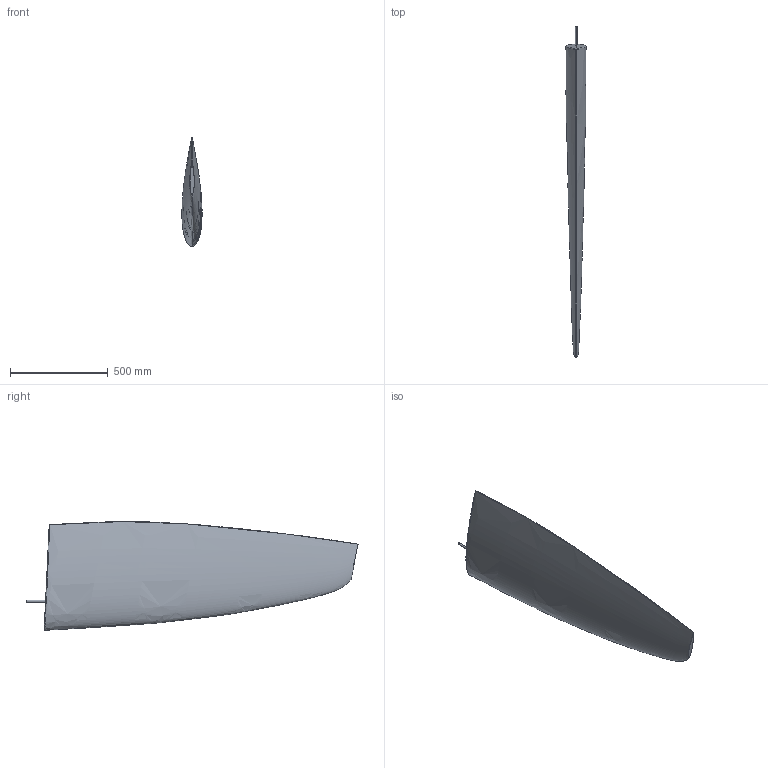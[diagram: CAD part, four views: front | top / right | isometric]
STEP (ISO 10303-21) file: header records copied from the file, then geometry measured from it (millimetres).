
FILE_DESCRIPTION (( 'STEP AP203' ), '1' );
FILE_NAME ('Rudderblade RUD34 for 30 to 38ft.STEP', '2008-09-04T11:21:48', ( 'Klaus Jeppsen' ), ( 'Jefa' ), 'SwSTEP 2.0', 'SolidWorks 2008', '' );
FILE_SCHEMA (( 'CONFIG_CONTROL_DESIGN' ));
Length unit declared in the file: millimetre
Products named in the file (1): Rudderblade RUD34 for 30 to 38ft
Bounding box: 103.31 x 1700.3 x 556.49 mm (x, y, z)
Volume: 38995885.9 mm3; surface area: 1494713.3 mm2
Topology: 1 solids, 1 shells, 15 faces, 33 edges, 20 vertices
Faces by surface type: bspline 9, plane 4, cylinder 2
Entity records: 7281 total; most frequent: CARTESIAN_POINT 6956, ORIENTED_EDGE 66, EDGE_CURVE 33, DIRECTION 24, B_SPLINE_CURVE_WITH_KNOTS 23, VERTEX_POINT 20, FACE_OUTER_BOUND 15, EDGE_LOOP 15
